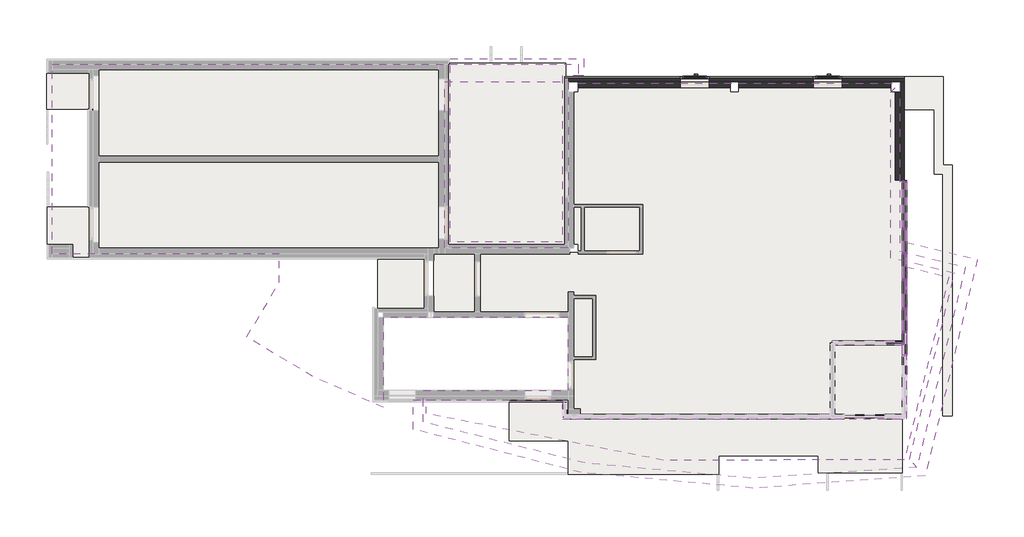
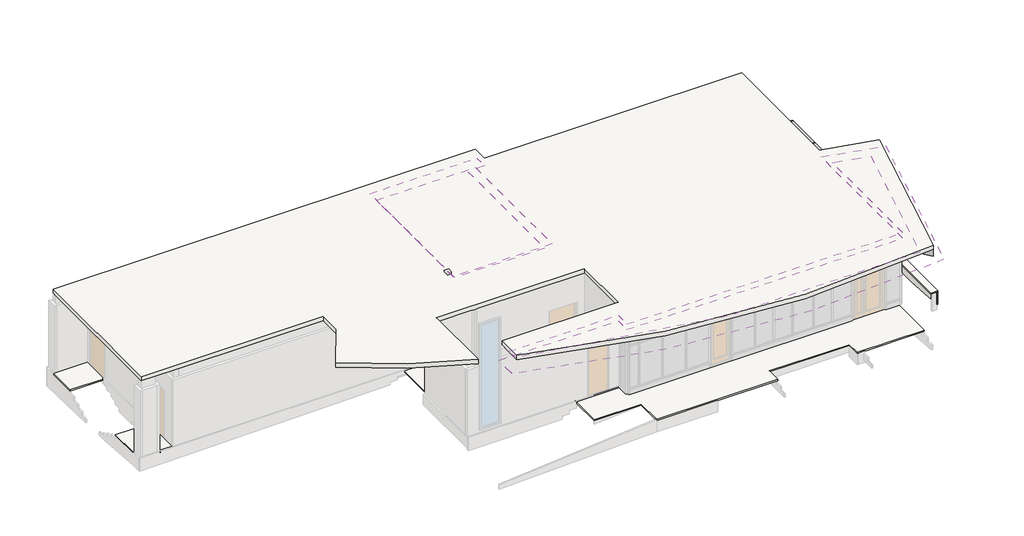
# One storey, part 4 of 4: 41 members, 14 plates, 10 walls, 9 slabs, 4 coverings, 3 railings, 2 windows, 1 proxy.
"""IFC4 building model written with IfcOpenShell, lengths in millimetres."""

from ifc_helpers import new_model, si_unit, point, frame, frame_2d, origin, origin_with_axes, place, context, project, spatial, polyline, circle_curve, trimmed, segment, composite_curve, outline, extrude, faceted_brep, transform, mapped, element, save
from components import member_1f1ab5e9, member_7164932b, member_65e6a114, member_e1845f1f, member_b1af7fba, member_eeb88b28, member_35d6a770, member_111bacfa, member_bd199250, member_6ffebc0f, member_c6c4f21c, member_7c62c7d9, member_a6ba09a3, member_a053b0ca, member_12a430f9, member_f478ca5a, member_324a6438, member_457f9466, member_0d3281e4, member_7d543e93, member_94daa18e, member_39176afa, member_14014a91, member_5e049f15, plate_75760212, plate_d41ff481, plate_732bb6f4, plate_903b2bb5, plate_109dd5f9, plate_8821ab84, plate_1bb4b435, plate_b91d36d7, plate_5e9edd35, plate_1732cab8, plate_8906afd4, plate_b985795c, railing_55e674e1, railing_22186c04, railing_15e125c1, window_c3153de1

model = new_model("IFC4")

# Units and contexts
model_context = context("Model", 3, world=origin())
ifc_project = project(units=[si_unit("LENGTHUNIT", "METRE", prefix="MILLI")], contexts=[model_context])

# Site, building, storey
site = spatial("IfcSite", under=ifc_project)
building = spatial("IfcBuilding", under=site)
storey = spatial("IfcBuildingStorey", under=building, Name="Этаж 1", Elevation=0.0)

# Proxy
placement = place(None, origin())
element("IfcBuildingElementProxy", 1, Name="Ребро плиты", ObjectType="Ребро плиты", at=placement, inside=storey, context=model_context, shape_type="Brep", body=[
    faceted_brep([(27115.1990554, 10225.2, 2995.2), (27115.1990554, 10225.2, 3300.0), (27419.9990554, 10530.0, 3300.0), (27419.9990554, 10530.0, 2995.2), (27419.9990554, 4786.4058531, 2995.2), (27115.1990554, 4546.5554672, 2995.2), (27419.9990554, 4786.4058531, 3300.0), (27115.1990554, 4546.5554672, 3300.0), (29673.3828723, 4241.2204974, 2995.2), (29305.4546009, 4016.6434124, 2995.2), (29673.3828723, 4241.2204974, 3300.0), (29305.4546009, 4016.6434124, 3300.0), (27764.4011468, -2352.9057298, 2995.2), (28012.2608039, -2624.6014617, 2995.2), (28012.2608039, -2624.6014617, 3300.0), (27764.4011468, -2352.9057298, 3300.0)], [[[0, 1, 2, 3]], [[4, 5, 0, 3]], [[6, 4, 3, 2]], [[7, 6, 2, 1]], [[5, 7, 1, 0]], [[8, 9, 5, 4]], [[10, 8, 4, 6]], [[11, 10, 6, 7]], [[9, 11, 7, 5]], [[12, 13, 14, 15]], [[13, 12, 9, 8]], [[14, 13, 8, 10]], [[15, 14, 10, 11]], [[12, 15, 11, 9]]]),
])

# Coverings
element("IfcCovering", 2, ObjectType="Нр.(Ут-120)", at=placement, inside=storey, context=model_context, shape_type="SweptSolid", body=[
    extrude(outline(polyline([(11850.0, 10580.0), (16070.0, 10580.0), (16070.0, 4880.0), (11850.0, 4880.0), (11850.0, 10580.0)])), frame((0.0, 0.0, 3180.0), z_axis=(0.0, 0.0, 1.0), x_axis=(1.0, 0.0, 0.0)), (0.0, 0.0, 1.0), 120.0),
])
element("IfcCovering", 3, ObjectType="Нрю.(От.25)", at=placement, inside=storey, context=model_context, shape_type="SweptSolid", body=[
    extrude(outline(polyline([(16604.9987544, 10790.0), (15880.0, 10790.0), (15880.0, 5090.0), (12033.0, 5090.0), (12033.0, 11375.0), (16604.9987544, 11375.0), (16604.9987544, 10790.0)])), frame((0.0, 0.0, 2930.0), z_axis=(0.0, 0.0, 1.0), x_axis=(1.0, 0.0, 0.0)), (0.0, 0.0, 1.0), 25.0),
])
element("IfcCovering", 4, ObjectType="Нр.(Ут-120)", at=placement, inside=storey, context=model_context, shape_type="SweptSolid", body=[
    extrude(outline(composite_curve([segment(polyline([(11218.5530304, -789.9266808), (11218.5530304, -320.0), (15882.9914484, -320.0), (15882.9914484, -970.4505288), (27662.9990554, -970.4505288), (27662.9990554, 4239.1155801), (29100.2452632, 3891.3871642), (27584.099694, -2375.2116252)]), True, "CONTINUOUS"), segment(trimmed(circle_curve(frame_2d((23385.1310559, 39543.8806022)), 42128.8693272), [point((27584.099694, -2375.2116252))], [point((11218.5530304, -789.9266808))], False, "CARTESIAN"), True, "CONTINUOUS")], self_intersect=False)), frame((0.0, 0.0, 3180.0), z_axis=(0.0, 0.0, 1.0), x_axis=(1.0, 0.0, 0.0)), (0.0, 0.0, 1.0), 120.0),
    extrude(outline(composite_curve([segment(polyline([(6655.091724, 3578.5446995), (6655.091724, 4560.0), (11150.0, 4560.0), (11150.0, 2820.0), (9430.291724, 2820.0), (9430.291724, 51.1373358)]), True, "CONTINUOUS"), segment(trimmed(circle_curve(frame_2d((16778.7203102, 18769.2388228)), 20108.8718223), [point((9430.291724, 51.1373358))], [point((5712.9432196, 1978.9051946))], False, "CARTESIAN"), True, "CONTINUOUS"), segment(polyline([(5712.9432196, 1978.9051946), (6655.091724, 3578.5446995)]), True, "CONTINUOUS")], self_intersect=False)), frame((0.0, 0.0, 3180.0), z_axis=(0.0, 0.0, 1.0), x_axis=(1.0, 0.0, 0.0)), (0.0, 0.0, 1.0), 120.0),
])
element("IfcCovering", 5, ObjectType="Нрю.(От.25)", at=placement, inside=storey, context=model_context, shape_type="SweptSolid", body=[
    extrude(outline(composite_curve([segment(polyline([(30086.2157752, 4493.2065968), (28291.9689147, -2922.8525415)]), True, "CONTINUOUS"), segment(trimmed(circle_curve(frame_2d((22756.0908128, 33189.9377696)), 36534.6352167), [point((28291.9689147, -2922.8525415))], [point((10778.291724, -1325.4486458))], False, "CARTESIAN"), True, "CONTINUOUS"), segment(polyline([(10778.291724, -1325.4486458), (10778.291724, -320.0), (15882.9914484, -320.0), (15882.9914484, -970.4505288), (27662.9990554, -970.4505288), (27662.9990554, 5079.4814512), (30086.2157752, 4493.2065968)]), True, "CONTINUOUS")], self_intersect=False)), frame((0.0, 0.0, 2930.0), z_axis=(0.0, 0.0, 1.0), x_axis=(1.0, 0.0, 0.0)), (0.0, 0.0, 1.0), 25.0),
    extrude(outline(composite_curve([segment(trimmed(circle_curve(frame_2d((17177.1346026, 19544.3598212)), 21788.8323943), [point((10048.291724, -1045.2690321))], [point((4622.1396084, 1736.3470798))], False, "CARTESIAN"), True, "CONTINUOUS"), segment(polyline([(4622.1396084, 1736.3470798), (5838.291724, 3801.2072998), (5838.291724, 4560.0), (11150.0, 4560.0), (11150.0, 2820.0), (9430.291724, 2820.0), (9430.291724, -320.0), (10048.291724, -320.0), (10048.291724, -1045.2690321)]), True, "CONTINUOUS")], self_intersect=False)), frame((0.0, 0.0, 2930.0), z_axis=(0.0, 0.0, 1.0), x_axis=(1.0, 0.0, 0.0)), (0.0, 0.0, 1.0), 25.0),
])

# Members
member_shape = member_1f1ab5e9(model_context)
element("IfcMember", 6, ObjectType="Прямоугольный импост : 50х150мм", at=placement, inside=storey, context=model_context, shape_type="MappedRepresentation", body=[
    mapped(member_shape, transform((27587.9990554, 1204.5494712, 2140.0), x_axis=(0.0, 1.0, 0.0), y_axis=(1.0, 0.0, 0.0), z_axis=(0.0, 0.0, -1.0))),
])
element("IfcMember", 7, ObjectType="Прямоугольный импост : 50х150мм", at=placement, inside=storey, context=model_context, shape_type="MappedRepresentation", body=[
    mapped(member_shape, transform((27587.9990554, 2004.5494712, 2140.0), x_axis=(0.0, 1.0, 0.0), y_axis=(1.0, 0.0, 0.0), z_axis=(0.0, 0.0, -1.0))),
])
element("IfcMember", 8, ObjectType="Прямоугольный импост : 50х150мм", at=placement, inside=storey, context=model_context, shape_type="MappedRepresentation", body=[
    mapped(member_shape, transform((27587.9990554, 2804.5494712, 2140.0), x_axis=(0.0, 1.0, 0.0), y_axis=(1.0, 0.0, 0.0), z_axis=(0.0, 0.0, -1.0))),
])
element("IfcMember", 9, ObjectType="Прямоугольный импост : 50х150мм", at=placement, inside=storey, context=model_context, shape_type="MappedRepresentation", body=[
    mapped(member_shape, transform((27587.9990554, 3804.5494712, 2140.0), x_axis=(0.0, 1.0, 0.0), y_axis=(1.0, 0.0, 0.0), z_axis=(0.0, 0.0, -1.0))),
])
element("IfcMember", 10, ObjectType="Прямоугольный импост : 50х150мм", at=placement, inside=storey, context=model_context, shape_type="MappedRepresentation", body=[
    mapped(member_shape, transform((27587.9990554, 4704.5494712, 2140.0), x_axis=(0.0, 1.0, 0.0), y_axis=(1.0, 0.0, 0.0), z_axis=(0.0, 0.0, -1.0))),
])
element("IfcMember", 11, ObjectType="Прямоугольный импост : 50х150мм", at=placement, inside=storey, context=model_context, shape_type="MappedRepresentation", body=[
    mapped(member_shape, transform((27587.9990554, 5536.3663141, 2140.0), x_axis=(0.0, 1.0, 0.0), y_axis=(1.0, 0.0, 0.0), z_axis=(0.0, 0.0, -1.0))),
])
member_2_shape = member_7164932b(model_context)
element("IfcMember", 12, ObjectType="Прямоугольный импост : 50х150мм", at=placement, inside=storey, context=model_context, shape_type="MappedRepresentation", body=[
    mapped(member_2_shape, transform((27587.9990554, 1204.5494712, 165.0), x_axis=(0.0, 1.0, 0.0), y_axis=(1.0, 0.0, 0.0), z_axis=(0.0, 0.0, -1.0))),
])
element("IfcMember", 13, ObjectType="Прямоугольный импост : 50х150мм", at=placement, inside=storey, context=model_context, shape_type="MappedRepresentation", body=[
    mapped(member_2_shape, transform((27587.9990554, 2004.5494712, 165.0), x_axis=(0.0, 1.0, 0.0), y_axis=(1.0, 0.0, 0.0), z_axis=(0.0, 0.0, -1.0))),
])
element("IfcMember", 14, ObjectType="Прямоугольный импост : 50х150мм", at=placement, inside=storey, context=model_context, shape_type="MappedRepresentation", body=[
    mapped(member_2_shape, transform((27587.9990554, 2804.5494712, 165.0), x_axis=(0.0, 1.0, 0.0), y_axis=(1.0, 0.0, 0.0), z_axis=(0.0, 0.0, -1.0))),
])
element("IfcMember", 15, ObjectType="Прямоугольный импост : 50х150мм", at=placement, inside=storey, context=model_context, shape_type="MappedRepresentation", body=[
    mapped(member_2_shape, transform((27587.9990554, 3804.5494712, 165.0), x_axis=(0.0, 1.0, 0.0), y_axis=(1.0, 0.0, 0.0), z_axis=(0.0, 0.0, -1.0))),
])
element("IfcMember", 16, ObjectType="Прямоугольный импост : 50х150мм", at=placement, inside=storey, context=model_context, shape_type="MappedRepresentation", body=[
    mapped(member_2_shape, transform((27587.9990554, 4704.5494712, 165.0), x_axis=(0.0, 1.0, 0.0), y_axis=(1.0, 0.0, 0.0), z_axis=(0.0, 0.0, -1.0))),
])
element("IfcMember", 17, ObjectType="Прямоугольный импост : 50х150мм", at=placement, inside=storey, context=model_context, shape_type="MappedRepresentation", body=[
    mapped(member_2_shape, transform((27587.9990554, 5536.3663141, 165.0), x_axis=(0.0, 1.0, 0.0), y_axis=(1.0, 0.0, 0.0), z_axis=(0.0, 0.0, -1.0))),
])
member_3_shape = member_65e6a114(model_context)
element("IfcMember", 18, ObjectType="Прямоугольный импост : 50х150мм", at=placement, inside=storey, context=model_context, shape_type="MappedRepresentation", body=[
    mapped(member_3_shape, transform((27587.9990554, 7200.0, 2140.0), x_axis=(0.0, 1.0, 0.0), y_axis=(1.0, 0.0, 0.0), z_axis=(0.0, 0.0, -1.0))),
])
member_4_shape = member_e1845f1f(model_context)
element("IfcMember", 19, ObjectType="Прямоугольный импост : 50х150мм", at=placement, inside=storey, context=model_context, shape_type="MappedRepresentation", body=[
    mapped(member_4_shape, transform((27587.9990554, 7200.0, 190.0), x_axis=(0.0, 1.0, 0.0), y_axis=(1.0, 0.0, 0.0), z_axis=(0.0, 0.0, -1.0))),
])
member_5_shape = member_b1af7fba(model_context)
element("IfcMember", 20, ObjectType="Прямоугольный импост : 50х150мм", at=placement, inside=storey, context=model_context, shape_type="MappedRepresentation", body=[
    mapped(member_5_shape, transform((27587.9990554, 7200.0, -50.0), x_axis=(0.0, 1.0, 0.0), y_axis=(1.0, 0.0, 0.0), z_axis=(0.0, 0.0, -1.0))),
])
member_6_shape = member_eeb88b28(model_context)
element("IfcMember", 21, ObjectType="Прямоугольный импост : 50х150мм", at=placement, inside=storey, context=model_context, shape_type="MappedRepresentation", body=[
    mapped(member_6_shape, transform((27587.9990554, 2804.5494712, -50.0), x_axis=(0.0, 0.0, -1.0), y_axis=(1.0, 0.0, 0.0), z_axis=(0.0, -1.0, 0.0))),
])
member_7_shape = member_35d6a770(model_context)
element("IfcMember", 22, ObjectType="Прямоугольный импост : 50х150мм", at=placement, inside=storey, context=model_context, shape_type="MappedRepresentation", body=[
    mapped(member_7_shape, transform((27587.9990554, 3804.5494712, -50.0), x_axis=(0.0, 0.0, -1.0), y_axis=(1.0, 0.0, 0.0), z_axis=(0.0, -1.0, 0.0))),
])
member_8_shape = member_111bacfa(model_context)
element("IfcMember", 23, ObjectType="Прямоугольный импост : 50х150мм", at=placement, inside=storey, context=model_context, shape_type="MappedRepresentation", body=[
    mapped(member_8_shape, transform((27587.9990554, 4704.5494712, -50.0), x_axis=(0.0, 0.0, -1.0), y_axis=(1.0, 0.0, 0.0), z_axis=(0.0, -1.0, 0.0))),
])
member_9_shape = member_bd199250(model_context)
element("IfcMember", 24, ObjectType="Прямоугольный импост : 50х150мм", at=placement, inside=storey, context=model_context, shape_type="MappedRepresentation", body=[
    mapped(member_9_shape, transform((27587.9990554, 5536.3663141, -50.0), x_axis=(0.0, 0.0, -1.0), y_axis=(1.0, 0.0, 0.0), z_axis=(0.0, -1.0, 0.0))),
])
member_10_shape = member_6ffebc0f(model_context)
element("IfcMember", 25, ObjectType="Прямоугольный импост : 50х150мм", at=placement, inside=storey, context=model_context, shape_type="MappedRepresentation", body=[
    mapped(member_10_shape, transform((27587.9990554, 2004.5494712, -50.0), x_axis=(0.0, 0.0, -1.0), y_axis=(1.0, 0.0, 0.0), z_axis=(0.0, -1.0, 0.0))),
])
member_11_shape = member_c6c4f21c(model_context)
element("IfcMember", 26, ObjectType="Прямоугольный импост : 50х150мм", at=placement, inside=storey, context=model_context, shape_type="MappedRepresentation", body=[
    mapped(member_11_shape, transform((27537.9990554, 1632.992393, -50.0), x_axis=(0.0, 0.0, -1.0), y_axis=(0.0, 1.0, 0.0), z_axis=(1.0, 0.0, 0.0))),
])
member_12_shape = member_7c62c7d9(model_context)
element("IfcMember", 27, ObjectType="Прямоугольный импост : 50х150мм", at=placement, inside=storey, context=model_context, shape_type="MappedRepresentation", body=[
    mapped(member_12_shape, transform((27587.9990554, 1632.992393, 3300.0), x_axis=(1.0, 0.0, 0.0), y_axis=(0.0, 1.0, 0.0), z_axis=(0.0, 0.0, 1.0))),
])
member_13_shape = member_a6ba09a3(model_context)
element("IfcMember", 28, ObjectType="Прямоугольный импост : 50х150мм", at=placement, inside=storey, context=model_context, shape_type="MappedRepresentation", body=[
    mapped(member_13_shape, transform((27587.9990554, 1632.992393, 2190.0), x_axis=(1.0, 0.0, 0.0), y_axis=(0.0, 1.0, 0.0), z_axis=(0.0, 0.0, 1.0))),
])
member_14_shape = member_a053b0ca(model_context)
element("IfcMember", 29, ObjectType="Прямоугольный импост : 50х150мм", at=placement, inside=storey, context=model_context, shape_type="MappedRepresentation", body=[
    mapped(member_14_shape, transform((27587.9990554, 3779.5494712, 2140.0), x_axis=(0.0, 0.0, 1.0), y_axis=(1.0, 0.0, 0.0), z_axis=(0.0, 1.0, 0.0))),
])
element("IfcMember", 30, ObjectType="Прямоугольный импост : 50х150мм", at=placement, inside=storey, context=model_context, shape_type="MappedRepresentation", body=[
    mapped(member_14_shape, transform((27587.9990554, 3779.5494712, 190.0), x_axis=(0.0, 0.0, 1.0), y_axis=(1.0, 0.0, 0.0), z_axis=(0.0, 1.0, 0.0))),
])
member_15_shape = member_12a430f9(model_context)
element("IfcMember", 31, ObjectType="Прямоугольный импост : 50х150мм", at=placement, inside=storey, context=model_context, shape_type="MappedRepresentation", body=[
    mapped(member_15_shape, transform((27587.9990554, 3779.5494712, 3300.0), x_axis=(0.0, 0.0, 1.0), y_axis=(1.0, 0.0, 0.0), z_axis=(0.0, 1.0, 0.0))),
])
member_16_shape = member_f478ca5a(model_context)
element("IfcMember", 32, ObjectType="Прямоугольный импост : 50х150мм", at=placement, inside=storey, context=model_context, shape_type="MappedRepresentation", body=[
    mapped(member_16_shape, transform((27587.9990554, 4679.5494712, 2140.0), x_axis=(0.0, 0.0, 1.0), y_axis=(1.0, 0.0, 0.0), z_axis=(0.0, 1.0, 0.0))),
])
element("IfcMember", 33, ObjectType="Прямоугольный импост : 50х150мм", at=placement, inside=storey, context=model_context, shape_type="MappedRepresentation", body=[
    mapped(member_16_shape, transform((27587.9990554, 4679.5494712, 190.0), x_axis=(0.0, 0.0, 1.0), y_axis=(1.0, 0.0, 0.0), z_axis=(0.0, 1.0, 0.0))),
])
member_17_shape = member_324a6438(model_context)
element("IfcMember", 34, ObjectType="Прямоугольный импост : 50х150мм", at=placement, inside=storey, context=model_context, shape_type="MappedRepresentation", body=[
    mapped(member_17_shape, transform((27587.9990554, 4679.5494712, 3300.0), x_axis=(0.0, 0.0, 1.0), y_axis=(1.0, 0.0, 0.0), z_axis=(0.0, 1.0, 0.0))),
])
member_18_shape = member_457f9466(model_context)
element("IfcMember", 35, ObjectType="Прямоугольный импост : 50х150мм", at=placement, inside=storey, context=model_context, shape_type="MappedRepresentation", body=[
    mapped(member_18_shape, transform((27587.9990554, 2779.5494712, 2140.0), x_axis=(0.0, 0.0, 1.0), y_axis=(1.0, 0.0, 0.0), z_axis=(0.0, 1.0, 0.0))),
])
element("IfcMember", 36, ObjectType="Прямоугольный импост : 50х150мм", at=placement, inside=storey, context=model_context, shape_type="MappedRepresentation", body=[
    mapped(member_18_shape, transform((27587.9990554, 1979.5494712, 190.0), x_axis=(0.0, 0.0, 1.0), y_axis=(1.0, 0.0, 0.0), z_axis=(0.0, 1.0, 0.0))),
])
element("IfcMember", 37, ObjectType="Прямоугольный импост : 50х150мм", at=placement, inside=storey, context=model_context, shape_type="MappedRepresentation", body=[
    mapped(member_18_shape, transform((27587.9990554, 2779.5494712, 190.0), x_axis=(0.0, 0.0, 1.0), y_axis=(1.0, 0.0, 0.0), z_axis=(0.0, 1.0, 0.0))),
])
member_19_shape = member_0d3281e4(model_context)
element("IfcMember", 38, ObjectType="Прямоугольный импост : 50х150мм", at=placement, inside=storey, context=model_context, shape_type="MappedRepresentation", body=[
    mapped(member_19_shape, transform((27587.9990554, 1979.5494712, 3300.0), x_axis=(0.0, 0.0, 1.0), y_axis=(1.0, 0.0, 0.0), z_axis=(0.0, 1.0, 0.0))),
])
element("IfcMember", 39, ObjectType="Прямоугольный импост : 50х150мм", at=placement, inside=storey, context=model_context, shape_type="MappedRepresentation", body=[
    mapped(member_19_shape, transform((27587.9990554, 2779.5494712, 3300.0), x_axis=(0.0, 0.0, 1.0), y_axis=(1.0, 0.0, 0.0), z_axis=(0.0, 1.0, 0.0))),
])
member_20_shape = member_7d543e93(model_context)
element("IfcMember", 40, ObjectType="Прямоугольный импост : 50х150мм", at=placement, inside=storey, context=model_context, shape_type="MappedRepresentation", body=[
    mapped(member_20_shape, transform((27587.9990554, 1179.5494712, 190.0), x_axis=(0.0, 0.0, 1.0), y_axis=(1.0, 0.0, 0.0), z_axis=(0.0, 1.0, 0.0))),
])
member_21_shape = member_94daa18e(model_context)
element("IfcMember", 41, ObjectType="Прямоугольный импост : 50х150мм", at=placement, inside=storey, context=model_context, shape_type="MappedRepresentation", body=[
    mapped(member_21_shape, transform((27587.9990554, 7150.0, 3300.0), x_axis=(0.0, 0.0, 1.0), y_axis=(1.0, 0.0, 0.0), z_axis=(0.0, 1.0, 0.0))),
])
member_22_shape = member_39176afa(model_context)
element("IfcMember", 42, ObjectType="Прямоугольный импост : 50х150мм", at=placement, inside=storey, context=model_context, shape_type="MappedRepresentation", body=[
    mapped(member_22_shape, transform((27587.9990554, 5511.3663141, 2140.0), x_axis=(0.0, 0.0, 1.0), y_axis=(1.0, 0.0, 0.0), z_axis=(0.0, 1.0, 0.0))),
])
element("IfcMember", 43, ObjectType="Прямоугольный импост : 50х150мм", at=placement, inside=storey, context=model_context, shape_type="MappedRepresentation", body=[
    mapped(member_22_shape, transform((27587.9990554, 5511.3663141, 190.0), x_axis=(0.0, 0.0, 1.0), y_axis=(1.0, 0.0, 0.0), z_axis=(0.0, 1.0, 0.0))),
])
member_23_shape = member_14014a91(model_context)
element("IfcMember", 44, ObjectType="Прямоугольный импост : 50х150мм", at=placement, inside=storey, context=model_context, shape_type="MappedRepresentation", body=[
    mapped(member_23_shape, transform((27587.9990554, 5511.3663141, 3300.0), x_axis=(0.0, 0.0, 1.0), y_axis=(1.0, 0.0, 0.0), z_axis=(0.0, 1.0, 0.0))),
])
member_24_shape = member_5e049f15(model_context)
element("IfcMember", 45, ObjectType="Прямоугольный импост : 50х150мм", at=placement, inside=storey, context=model_context, shape_type="MappedRepresentation", body=[
    mapped(member_24_shape, transform((27587.9990554, 7150.0, 2140.0), x_axis=(0.0, 0.0, 1.0), y_axis=(1.0, 0.0, 0.0), z_axis=(0.0, 1.0, 0.0))),
])
element("IfcMember", 46, ObjectType="Прямоугольный импост : 50х150мм", at=placement, inside=storey, context=model_context, shape_type="MappedRepresentation", body=[
    mapped(member_24_shape, transform((27587.9990554, 7150.0, 190.0), x_axis=(0.0, 0.0, 1.0), y_axis=(1.0, 0.0, 0.0), z_axis=(0.0, 1.0, 0.0))),
])

# Plates
element("IfcPlate", 47, ObjectType="(Нр)_(См-10.Ут-130.См-10)", at=placement, inside=storey, context=model_context, shape_type="SweptSolid", body=[
    extrude(outline(polyline([(27662.9990554, 7150.0), (27662.9990554, -845.4505288), (27512.9990554, -845.4505288), (27512.9990554, 7150.0), (27662.9990554, 7150.0)])), origin_with_axes(), (0.0, 0.0, 1.0), 165.0),
])
plate_shape = plate_75760212(model_context)
element("IfcPlate", 48, ObjectType="Системная панель : Стекло(50мм)", at=placement, inside=storey, context=model_context, shape_type="MappedRepresentation", body=[
    mapped(plate_shape, transform((27587.9990554, 3304.5494712, 2165.0), x_axis=(0.0, 1.0, 0.0), y_axis=(-1.0, 0.0, 0.0), z_axis=(0.0, 0.0, 1.0))),
])
plate_2_shape = plate_d41ff481(model_context)
element("IfcPlate", 49, ObjectType="Системная панель : Стекло(50мм)", at=placement, inside=storey, context=model_context, shape_type="MappedRepresentation", body=[
    mapped(plate_2_shape, transform((27587.9990554, 4254.5494712, 2165.0), x_axis=(0.0, 1.0, 0.0), y_axis=(-1.0, 0.0, 0.0), z_axis=(0.0, 0.0, 1.0))),
])
plate_3_shape = plate_732bb6f4(model_context)
element("IfcPlate", 50, ObjectType="Системная панель : Стекло(50мм)", at=placement, inside=storey, context=model_context, shape_type="MappedRepresentation", body=[
    mapped(plate_3_shape, transform((27587.9990554, 2404.5494712, 2165.0), x_axis=(0.0, 1.0, 0.0), y_axis=(-1.0, 0.0, 0.0), z_axis=(0.0, 0.0, 1.0))),
])
plate_4_shape = plate_903b2bb5(model_context)
element("IfcPlate", 51, ObjectType="Системная панель : Стекло(50мм)", at=placement, inside=storey, context=model_context, shape_type="MappedRepresentation", body=[
    mapped(plate_4_shape, transform((27587.9990554, 3304.5494712, 215.0), x_axis=(0.0, 1.0, 0.0), y_axis=(-1.0, 0.0, 0.0), z_axis=(0.0, 0.0, 1.0))),
])
plate_5_shape = plate_109dd5f9(model_context)
element("IfcPlate", 52, ObjectType="Системная панель : Стекло(50мм)", at=placement, inside=storey, context=model_context, shape_type="MappedRepresentation", body=[
    mapped(plate_5_shape, transform((27587.9990554, 4254.5494712, 215.0), x_axis=(0.0, 1.0, 0.0), y_axis=(-1.0, 0.0, 0.0), z_axis=(0.0, 0.0, 1.0))),
])
plate_6_shape = plate_8821ab84(model_context)
element("IfcPlate", 53, ObjectType="Системная панель : Стекло(50мм)", at=placement, inside=storey, context=model_context, shape_type="MappedRepresentation", body=[
    mapped(plate_6_shape, transform((27587.9990554, 1604.5494712, 215.0), x_axis=(0.0, 1.0, 0.0), y_axis=(-1.0, 0.0, 0.0), z_axis=(0.0, 0.0, 1.0))),
])
element("IfcPlate", 54, ObjectType="Системная панель : Стекло(50мм)", at=placement, inside=storey, context=model_context, shape_type="MappedRepresentation", body=[
    mapped(plate_6_shape, transform((27587.9990554, 2404.5494712, 215.0), x_axis=(0.0, 1.0, 0.0), y_axis=(-1.0, 0.0, 0.0), z_axis=(0.0, 0.0, 1.0))),
])
plate_7_shape = plate_1bb4b435(model_context)
element("IfcPlate", 55, ObjectType="Системная панель : Стекло(50мм)", at=placement, inside=storey, context=model_context, shape_type="MappedRepresentation", body=[
    mapped(plate_7_shape, transform((27587.9990554, 5120.4578926, 2165.0), x_axis=(0.0, 1.0, 0.0), y_axis=(-1.0, 0.0, 0.0), z_axis=(0.0, 0.0, 1.0))),
])
plate_8_shape = plate_b91d36d7(model_context)
element("IfcPlate", 56, ObjectType="Системная панель : Стекло(50мм)", at=placement, inside=storey, context=model_context, shape_type="MappedRepresentation", body=[
    mapped(plate_8_shape, transform((27587.9990554, 6355.6831571, 2165.0), x_axis=(0.0, 1.0, 0.0), y_axis=(-1.0, 0.0, 0.0), z_axis=(0.0, 0.0, 1.0))),
])
plate_9_shape = plate_5e9edd35(model_context)
element("IfcPlate", 57, ObjectType="Системная панель : Стекло(50мм)", at=placement, inside=storey, context=model_context, shape_type="MappedRepresentation", body=[
    mapped(plate_9_shape, transform((27587.9990554, 5120.4578926, 215.0), x_axis=(0.0, 1.0, 0.0), y_axis=(-1.0, 0.0, 0.0), z_axis=(0.0, 0.0, 1.0))),
])
plate_10_shape = plate_1732cab8(model_context)
element("IfcPlate", 58, ObjectType="Системная панель : Стекло(50мм)", at=placement, inside=storey, context=model_context, shape_type="MappedRepresentation", body=[
    mapped(plate_10_shape, transform((27587.9990554, 6355.6831571, 215.0), x_axis=(0.0, 1.0, 0.0), y_axis=(-1.0, 0.0, 0.0), z_axis=(0.0, 0.0, 1.0))),
])
plate_11_shape = plate_8906afd4(model_context)
element("IfcPlate", 59, ObjectType="Системная панель : Стекло(50мм)", at=placement, inside=storey, context=model_context, shape_type="MappedRepresentation", body=[
    mapped(plate_11_shape, transform((27249.9990554, 1632.992393, 0.0), x_axis=(-1.0, 0.0, 0.0), y_axis=(0.0, -1.0, 0.0), z_axis=(0.0, 0.0, 1.0))),
])
plate_12_shape = plate_b985795c(model_context)
element("IfcPlate", 60, ObjectType="Системная панель : Стекло(50мм)", at=placement, inside=storey, context=model_context, shape_type="MappedRepresentation", body=[
    mapped(plate_12_shape, transform((27249.9990554, 1632.992393, 2215.0), x_axis=(-1.0, 0.0, 0.0), y_axis=(0.0, -1.0, 0.0), z_axis=(0.0, 0.0, 1.0))),
])

# Railings
railing_shape = railing_55e674e1(model_context)
element("IfcRailing", 61, ObjectType="Ограждение 1", at=placement, inside=storey, context=model_context, shape_type="MappedRepresentation", body=[
    mapped(railing_shape, transform((0.0, 0.0, 0.0), x_axis=(1.0, 0.0, 0.0), y_axis=(0.0, 1.0, 0.0), z_axis=(0.0, 0.0, 1.0))),
])
railing_2_shape = railing_22186c04(model_context)
element("IfcRailing", 62, ObjectType="Ограждение 1", at=placement, inside=storey, context=model_context, shape_type="MappedRepresentation", body=[
    mapped(railing_2_shape, transform((0.0, 0.0, 0.0), x_axis=(1.0, 0.0, 0.0), y_axis=(0.0, 1.0, 0.0), z_axis=(0.0, 0.0, 1.0))),
])
railing_3_shape = railing_15e125c1(model_context)
element("IfcRailing", 63, ObjectType="Ограждение 1", at=placement, inside=storey, context=model_context, shape_type="MappedRepresentation", body=[
    mapped(railing_3_shape, transform((0.0, 0.0, 0.0), x_axis=(1.0, 0.0, 0.0), y_axis=(0.0, 1.0, 0.0), z_axis=(0.0, 0.0, 1.0))),
])

# Slabs
element("IfcSlab", 64, ObjectType="(Вн).(Тип2-100)", at=placement, inside=storey, context=model_context, shape_type="SweptSolid", body=[
    extrude(outline(polyline([(11650.0, 10990.0), (11650.0, 4880.0), (0.0, 4880.0), (0.0, 10990.0), (11650.0, 10990.0)])), frame((0.0, 0.0, -100.0), z_axis=(0.0, 0.0, 1.0), x_axis=(1.0, 0.0, 0.0)), (0.0, 0.0, 1.0), 100.0),
])
element("IfcSlab", 65, ObjectType="(Вн).(Тип2-100)", at=placement, inside=storey, context=model_context, shape_type="SweptSolid", body=[
    extrude(outline(polyline([(16120.0, 4680.0), (16120.0, 4730.0), (16420.0, 4730.0), (16420.0, 5030.0), (16270.0, 5030.0), (16270.0, 10230.0), (16420.0, 10230.0), (16420.0, 10380.0), (21619.9990554, 10380.0), (21619.9990554, 10230.0), (21919.9990554, 10230.0), (21919.9990554, 10380.0), (27119.9990554, 10380.0), (27119.9990554, 10230.0), (27269.9990554, 10230.0), (27269.9990554, 7203.9999539), (27512.9990554, 7203.9999539), (27512.9990554, -820.0), (16490.0, -820.0), (16490.0, -620.0), (16270.0, -620.0), (16270.0, 2700.0), (11470.0, 2700.0), (11470.0, 4680.0), (16120.0, 4680.0)])), frame((0.0, 0.0, -100.0), z_axis=(0.0, 0.0, 1.0), x_axis=(1.0, 0.0, 0.0)), (0.0, 0.0, 1.0), 100.0),
])
element("IfcSlab", 66, ObjectType="(Нр)_(От-50)_Керамогранит", at=placement, inside=storey, context=model_context, shape_type="SweptSolid", body=[
    extrude(outline(polyline([(11970.0, 11215.0), (15995.0, 11215.0), (15995.0, 10755.0000008), (15950.0, 10755.0000008), (15950.0, 5000.0), (11970.0, 5000.0), (11970.0, 11215.0)])), frame((0.0, 0.0, -100.0), z_axis=(0.0, 0.0, 1.0), x_axis=(1.0, 0.0, 0.0)), (0.0, 0.0, 1.0), 50.0),
])
element("IfcSlab", 67, ObjectType="(Нр)_(От-50)_Керамогранит", at=placement, inside=storey, context=model_context, shape_type="SweptSolid", body=[
    extrude(outline(polyline([(-1783.4332962, 9640.0), (-1783.4332962, 10870.0), (-320.0, 10870.0), (-320.0, 9640.0), (-1783.4332962, 9640.0)])), frame((0.0, 0.0, -100.0), z_axis=(0.0, 0.0, 1.0), x_axis=(1.0, 0.0, 0.0)), (0.0, 0.0, 1.0), 50.0),
])
element("IfcSlab", 68, ObjectType="(Нр)_(От-50)_Керамогранит", at=placement, inside=storey, context=model_context, shape_type="SweptSolid", body=[
    extrude(outline(polyline([(-1760.9332962, 6294.9949335), (-320.0, 6294.9949335), (-320.0, 4515.0), (-880.0, 4515.0), (-880.0, 5000.0), (-1760.9332962, 5000.0), (-1760.9332962, 6294.9949335)])), frame((0.0, 0.0, -100.0), z_axis=(0.0, 0.0, 1.0), x_axis=(1.0, 0.0, 0.0)), (0.0, 0.0, 1.0), 50.0),
])
element("IfcSlab", 69, ObjectType="(Нр)_(От-50)_Керамогранит", at=placement, inside=storey, context=model_context, shape_type="SweptSolid", body=[
    extrude(outline(polyline([(24640.0009446, -2230.0), (21230.0009446, -2230.0), (21230.0009446, -2865.0), (16070.0, -2865.0), (16070.0, -1720.0), (14049.9990554, -1720.0), (14049.9990554, -320.0), (16070.0, -320.0), (16070.0, -820.0), (27514.9990554, -820.0), (27514.9990554, -2820.0), (24640.0009446, -2820.0), (24640.0009446, -2230.0)])), frame((0.0, 0.0, -100.0), z_axis=(0.0, 0.0, 1.0), x_axis=(1.0, 0.0, 0.0)), (0.0, 0.0, 1.0), 50.0),
])
element("IfcSlab", 70, ObjectType="(Нр)_(От-50)_Керамогранит", at=placement, inside=storey, context=model_context, shape_type="SweptSolid", body=[
    extrude(outline(polyline([(11150.0, 4560.0), (11150.0, 2820.0), (9550.291724, 2820.0), (9550.291724, 4560.0), (11150.0, 4560.0)])), frame((0.0, 0.0, -100.0), z_axis=(0.0, 0.0, 1.0), x_axis=(1.0, 0.0, 0.0)), (0.0, 0.0, 1.0), 50.0),
])
element("IfcSlab", 71, ObjectType="(Нр)_(От-50)_Керамогранит", at=placement, inside=storey, context=model_context, shape_type="SweptSolid", body=[
    extrude(outline(polyline([(27589.9990554, 10755.0000008), (28915.0001713, 10755.0000008), (28915.0001713, 7724.9999048), (29214.9999881, 7724.9999048), (29214.9999881, -865.0), (28904.9999881, -865.0), (28904.9999881, 7414.9999048), (28605.0001713, 7414.9999048), (28605.0001713, 9630.1367173), (27589.9990554, 9630.1367173), (27589.9990554, 10755.0000008)])), frame((0.0, 0.0, -100.0), z_axis=(0.0, 0.0, 1.0), x_axis=(1.0, 0.0, 0.0)), (0.0, 0.0, 1.0), 50.0),
])
element("IfcSlab", 72, ObjectType="(Вн)_(ЖБ-200)", at=placement, inside=storey, context=model_context, shape_type="SweptSolid", body=[
    extrude(outline(composite_curve([segment(polyline([(16419.9987544, 10530.0), (27419.9990554, 10530.0), (27419.9990554, 4786.4058531), (29673.3828723, 4241.2204974), (28012.2608039, -2624.6014617)]), True, "CONTINUOUS"), segment(trimmed(circle_curve(frame_2d((22767.3792147, 33121.1499071)), 36128.4863204), [point((28012.2608039, -2624.6014617))], [point((11120.2917239, -1078.4535524))], False, "CARTESIAN"), True, "CONTINUOUS"), segment(polyline([(11120.2917239, -1078.4535524), (11120.2917239, 0.0), (16070.291724, 0.0), (16070.291724, 2500.0), (9750.291724, 2500.0), (9750.291724, -577.3044678)]), True, "CONTINUOUS"), segment(trimmed(circle_curve(frame_2d((16778.7203102, 18769.2388228)), 20583.6718223), [point((9750.291724, -577.3044678))], [point((5077.2474953, 1835.1584035))], False, "CARTESIAN"), True, "CONTINUOUS"), segment(polyline([(5077.2474953, 1835.1584035), (6180.291724, 3707.9768771), (6180.291724, 4680.0), (-1595.9332962, 4680.0), (-1595.9332962, 11190.0), (16419.9987544, 11190.0), (16419.9987544, 10530.0)]), True, "CONTINUOUS")], self_intersect=False)), frame((0.0, 0.0, 3300.0), z_axis=(0.0, 0.0, 1.0), x_axis=(1.0, 0.0, 0.0)), (0.0, 0.0, 1.0), 200.0),
])

# Walls
element("IfcWall", 73, ObjectType="(Нр).(Ут-120)", at=placement, inside=storey, context=model_context, shape_type="Brep", body=[
    faceted_brep([(16070.0, 10580.0, -100.0), (27587.9990554, 10580.0, -100.0), (27587.9990554, 10580.0, -50.0), (27587.9990554, 10580.0, 3000.0), (27467.9990554, 10580.0, 3000.0), (16070.0, 10580.0, 3000.0), (19907.9990324, 10580.0, 2070.0), (20907.9990324, 10580.0, 2070.0), (20907.9990324, 10580.0, 940.0), (19907.9990324, 10580.0, 940.0), (24457.9999357, 10580.0, 2070.0), (25457.9999357, 10580.0, 2070.0), (25457.9999357, 10580.0, 940.0), (24457.9999357, 10580.0, 940.0), (16070.0, 10700.0, -100.0), (16070.0, 10700.0, 3000.0), (16479.9987544, 10700.0, 3000.0), (27587.9990554, 10700.0, 3000.0), (27587.9990554, 10700.0, -100.0), (20907.9990324, 10700.0, 2070.0), (19907.9990324, 10700.0, 2070.0), (19907.9990324, 10700.0, 900.0), (20907.9990324, 10700.0, 900.0), (25457.9999357, 10700.0, 2070.0), (24457.9999357, 10700.0, 2070.0), (24457.9999357, 10700.0, 900.0), (25457.9999357, 10700.0, 900.0), (20907.9990324, 10680.0, 900.0), (19907.9990324, 10680.0, 900.0), (19907.9990324, 10680.0, 940.0), (20907.9990324, 10680.0, 940.0), (20907.9990324, 10604.565173, 2070.0), (19907.9990324, 10604.565173, 2070.0), (20907.9990324, 10604.565173, 940.0), (19907.9990324, 10604.565173, 940.0), (25457.9999357, 10680.0, 900.0), (24457.9999357, 10680.0, 900.0), (24457.9999357, 10680.0, 940.0), (25457.9999357, 10680.0, 940.0), (25457.9999357, 10604.565173, 2070.0), (24457.9999357, 10604.565173, 2070.0), (25457.9999357, 10604.565173, 940.0), (24457.9999357, 10604.565173, 940.0)], [[[0, 1, 2, 3, 4, 5], [6, 7, 8, 9], [10, 11, 12, 13]], [[14, 15, 16, 17, 18], [19, 20, 21, 22], [23, 24, 25, 26]], [[1, 0, 14, 18]], [[5, 4, 3, 17, 16, 15]], [[0, 5, 15, 14]], [[3, 2, 1, 18, 17]], [[27, 28, 29, 30]], [[20, 19, 31, 7, 6, 32]], [[22, 27, 30, 33, 8, 7, 31, 19]], [[28, 27, 22, 21]], [[28, 21, 20, 32, 6, 9, 34, 29]], [[9, 8, 33, 30, 29, 34]], [[35, 36, 37, 38]], [[24, 23, 39, 11, 10, 40]], [[26, 35, 38, 41, 12, 11, 39, 23]], [[36, 35, 26, 25]], [[36, 25, 24, 40, 10, 13, 42, 37]], [[13, 12, 41, 38, 37, 42]]]),
])
element("IfcWall", 74, ObjectType="(Нр).(Ут-120)", at=placement, inside=storey, context=model_context, shape_type="SweptSolid", body=[
    extrude(outline(polyline([(27467.9990554, 7200.0), (27467.9990554, 10580.0), (27587.9990554, 10580.0), (27587.9990554, 7200.0), (27467.9990554, 7200.0)])), frame((0.0, 0.0, -50.0), z_axis=(0.0, 0.0, 1.0), x_axis=(1.0, 0.0, 0.0)), (0.0, 0.0, 1.0), 3050.0),
])
element("IfcWall", 75, ObjectType="(Нр)_(ПБ-200)", at=placement, inside=storey, context=model_context, shape_type="SweptSolid", body=[
    extrude(outline(polyline([(-100.0, 16420.0), (-100.0, 21619.9990554), (3000.0, 21619.9990554), (3000.0, 16420.0), (-100.0, 16420.0)]), holes=[polyline([(2070.0, 19907.9990324), (2070.0, 20907.9990324), (900.0, 20907.9990324), (900.0, 19907.9990324), (2070.0, 19907.9990324)])]), frame((0.0, 10380.0, 0.0), z_axis=(0.0, 1.0, 0.0), x_axis=(0.0, 0.0, 1.0)), (0.0, 0.0, 1.0), 200.0),
])
element("IfcWall", 76, ObjectType="(Нр)_(ПБ-200)", at=placement, inside=storey, context=model_context, shape_type="SweptSolid", body=[
    extrude(outline(polyline([(27269.9990554, 7203.9999539), (27269.9990554, 10230.0), (27469.9990554, 10230.0), (27469.9990554, 7203.9999539), (27269.9990554, 7203.9999539)])), frame((0.0, 0.0, -100.0), z_axis=(0.0, 0.0, 1.0), x_axis=(1.0, 0.0, 0.0)), (0.0, 0.0, 1.0), 3100.0),
])
element("IfcWall", 77, ObjectType="(Нр)_(ПБ-200)", at=placement, inside=storey, context=model_context, shape_type="SweptSolid", body=[
    extrude(outline(polyline([(-100.0, 21919.9990554), (-100.0, 27119.9990554), (3000.0, 27119.9990554), (3000.0, 21919.9990554), (-100.0, 21919.9990554)]), holes=[polyline([(2070.0, 24457.9999357), (2070.0, 25457.9999357), (900.0, 25457.9999357), (900.0, 24457.9999357), (2070.0, 24457.9999357)])]), frame((0.0, 10380.0, 0.0), z_axis=(0.0, 1.0, 0.0), x_axis=(0.0, 0.0, 1.0)), (0.0, 0.0, 1.0), 200.0),
])
element("IfcWall", 78, ObjectType="(Нр)_(От-45)_Керамогранит", at=placement, inside=storey, context=model_context, shape_type="Brep", body=[
    faceted_brep([(29214.9999881, -865.0, -100.0), (29214.9999881, -865.0, -651.7364764), (29214.9999881, 981.0203473, -766.9311231), (29214.9999881, 7724.9999048, -649.6085757), (29214.9999881, 7724.9999048, -100.0), (29169.9999881, -865.0, -100.0), (29169.9999881, -820.0, -100.0), (29169.9999881, 7679.9999048, -100.0), (29169.9999881, 7724.9999048, -100.0), (29169.9999881, 7724.9999048, -600.0), (29169.9999881, 7724.9999048, -649.6085757), (29169.9999881, 981.0203473, -766.9311231), (29169.9999881, -865.0, -651.7364764)], [[[0, 1, 2, 3, 4]], [[5, 6, 7, 8, 9, 10, 11, 12]], [[1, 0, 5, 12]], [[2, 1, 12, 11]], [[3, 2, 11, 10]], [[4, 3, 10, 9, 8]], [[0, 4, 8, 7, 6, 5]]]),
])
element("IfcWall", 79, ObjectType="(Нр)_(От-45)_Керамогранит", at=placement, inside=storey, context=model_context, shape_type="Brep", body=[
    faceted_brep([(28915.0001713, 7724.9999048, -100.0), (28915.0001713, 7724.9999048, -582.1496016), (28915.0001713, 10755.0000008, -529.6098534), (28915.0001713, 10755.0000008, -100.0), (28870.0001713, 7724.9999048, -100.0), (28870.0001713, 10710.0000008, -100.0), (28870.0001713, 10755.0000008, -100.0), (28870.0001713, 10755.0000008, -529.6098534), (28870.0001713, 7724.9999048, -582.1496016)], [[[0, 1, 2, 3]], [[4, 5, 6, 7, 8]], [[1, 0, 4, 8]], [[2, 1, 8, 7]], [[3, 2, 7, 6]], [[0, 3, 6, 5, 4]]]),
])
element("IfcWall", 80, ObjectType="(Нр)_(От-45)_Керамогранит", at=placement, inside=storey, context=model_context, shape_type="SweptSolid", body=[
    extrude(outline(polyline([(28915.0001713, 7724.9999048), (29169.9999881, 7724.9999048), (29169.9999881, 7679.9999048), (28915.0001713, 7679.9999048), (28915.0001713, 7724.9999048)])), frame((0.0, 0.0, -600.0), z_axis=(0.0, 0.0, 1.0), x_axis=(1.0, 0.0, 0.0)), (0.0, 0.0, 1.0), 500.0),
])
element("IfcWall", 81, ObjectType="(Нр)_(От-45)_Керамогранит", at=placement, inside=storey, context=model_context, shape_type="Brep", body=[
    faceted_brep([(15950.0, 10710.0000008, -470.0), (27587.5001713, 10710.0000008, -470.0), (27587.5001713, 10710.0000008, -100.0), (27587.5001713, 10710.0000008, -25.0), (15950.0, 10710.0000008, -25.0), (15950.0, 10755.0000008, -470.0), (15950.0, 10755.0000008, -100.0), (15950.0, 10755.0000008, -25.0), (27587.5001713, 10755.0000008, -25.0), (27587.5001713, 10755.0000008, -100.0), (27587.5001713, 10755.0000008, -470.0), (15995.0, 10755.0000008, -470.0)], [[[0, 1, 2, 3, 4]], [[5, 6, 7, 8, 9, 10, 11]], [[1, 0, 5, 11, 10]], [[3, 2, 1, 10, 9, 8]], [[4, 3, 8, 7]], [[0, 4, 7, 6, 5]]]),
])
element("IfcWall", 82, ObjectType="(Нр)_(От-45)_Керамогранит", at=placement, inside=storey, context=model_context, shape_type="Brep", body=[
    faceted_brep([(28870.0001713, 10755.0000008, -529.607261), (27587.5001713, 10755.0000008, -529.607261), (27587.5001713, 10755.0000008, -470.0), (27587.5001713, 10755.0000008, -100.0), (28870.0001713, 10755.0000008, -100.0), (28870.0001713, 10710.0000008, -529.607261), (28870.0001713, 10710.0000008, -100.0), (27587.5001713, 10710.0000008, -100.0), (27587.5001713, 10710.0000008, -470.0), (27587.5001713, 10710.0000008, -529.607261)], [[[0, 1, 2, 3, 4]], [[5, 6, 7, 8, 9]], [[1, 0, 5, 9]], [[3, 2, 1, 9, 8, 7]], [[4, 3, 7, 6]], [[0, 4, 6, 5]]]),
])

# Windows
window_shape = window_c3153de1(model_context)
element("IfcWindow", 83, ObjectType="RFAM2316_Window-10 : Window  FIX (1,0x1,17)", at=placement, inside=storey, context=model_context, shape_type="MappedRepresentation", body=[
    mapped(window_shape, transform((20664.8574419, 10635.0592833, 0.0), x_axis=(-1.0, 0.0, 0.0), y_axis=(0.0, -1.0, 0.0), z_axis=(0.0, 0.0, 1.0))),
])
element("IfcWindow", 84, ObjectType="RFAM2316_Window-10 : Window  FIX (1,0x1,17)", at=placement, inside=storey, context=model_context, shape_type="MappedRepresentation", body=[
    mapped(window_shape, transform((25214.8583451, 10635.0592833, 0.0), x_axis=(-1.0, 0.0, 0.0), y_axis=(0.0, -1.0, 0.0), z_axis=(0.0, 0.0, 1.0))),
])

save(model, "model.ifc")
